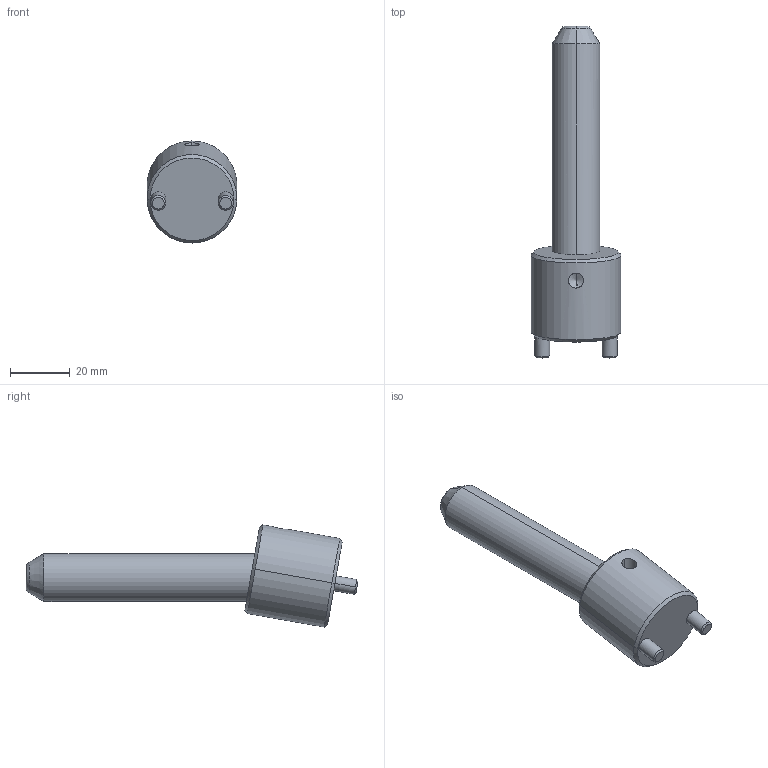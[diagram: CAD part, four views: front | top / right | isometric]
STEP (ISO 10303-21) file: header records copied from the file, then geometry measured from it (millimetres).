
FILE_DESCRIPTION(('CATIA V5 STEP Exchange'),'2;1');
FILE_NAME('C:\Users\Raffaele\Desktop\3D BOLEX\3D FILES CF BOLEX\19-INCLINED ASSEMBLY REF_CI\CI1016075.stp','2019-06-21T13:52:39+00:00',('none'),('none'),'CATIA Version 5 Release 20 GA (IN-10)','CATIA V5 STEP AP203','none');
FILE_SCHEMA(('CONFIG_CONTROL_DESIGN'));
Length unit declared in the file: millimetre
Products named in the file (1): CI1016075
Assembly tree (2 placements, depth 2):
  CI1016075
    #58
    #590
Bounding box: 30 x 110.83 x 34.06 mm (x, y, z)
Volume: 34318.6 mm3; surface area: 10718.9 mm2
Topology: 2 solids, 2 shells, 39 faces, 82 edges, 47 vertices
Faces by surface type: cone 14, cylinder 14, plane 7, torus 4
Entity records: 1491 total; most frequent: CARTESIAN_POINT 634, ORIENTED_EDGE 160, DIRECTION 144, EDGE_CURVE 80, AXIS2_PLACEMENT_3D 71, VERTEX_POINT 47, EDGE_LOOP 43, ADVANCED_FACE 39
